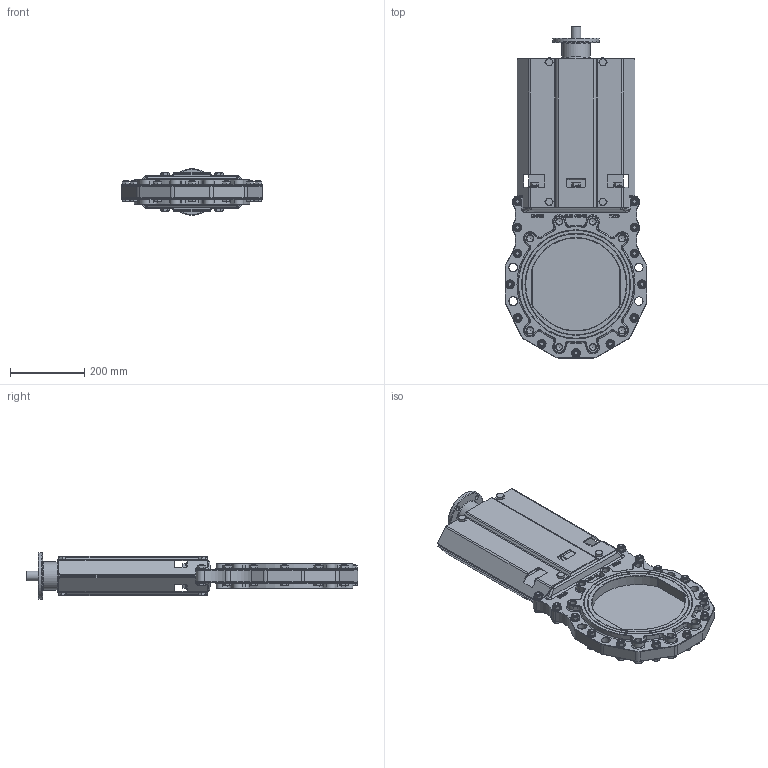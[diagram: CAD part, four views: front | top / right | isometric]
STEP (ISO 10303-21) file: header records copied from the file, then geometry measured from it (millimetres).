
FILE_DESCRIPTION(/* description */ (''),/* implementation_level */ '2;1');
FILE_NAME(/* name */ 'Rising stem knife gate valve with top flange DN250-10.stp',/* time_stamp */ '2025-04-21T17:19:35+08:00',/* author */ (''),/* organization */ (''),/* preprocessor_version */ 'ST-DEVELOPER v15',/* originating_system */ 'SIEMENS PLM Software NX 10.0',/* authorisation */ '');
FILE_SCHEMA (('AP203_CONFIGURATION_CONTROLLED_3D_DESIGN_OF_MECHANICAL_PARTS_AND_ASSEMBLIES_MIM_LF { 1 0 10303 403 2 1 2}'));
Products named in the file (1): Admi256412D81ny8
Bounding box: 382.07 x 893.78 x 125 mm (x, y, z)
Volume: 7344628.8 mm3; surface area: 1291749.3 mm2
Topology: 1 solids, 31 shells, 2817 faces, 6820 edges, 4237 vertices
Faces by surface type: plane 1092, cylinder 710, cone 285, extrusion 260, torus 256, bspline 190, sphere 24
Full cylindrical faces by diameter (mm): 2 x4, 5.2 x1, 10.106 x6, 10.5 x2, 11.053 x17, 11.5 x4, 12 x32, 13 x36, 17.2 x21, 17.294 x16, 18 x2, 20 x6, 23 x8, 24 x32, 25 x1, 26 x1, 40 x1, 66 x1, 73 x1, 76 x1, 125 x1
Entity records: 85790 total; most frequent: CARTESIAN_POINT 24005, ORIENTED_EDGE 12662, DIRECTION 11686, EDGE_CURVE 6331, AXIS2_PLACEMENT_3D 4366, VERTEX_POINT 4153, EDGE_LOOP 3500, VECTOR 2954
